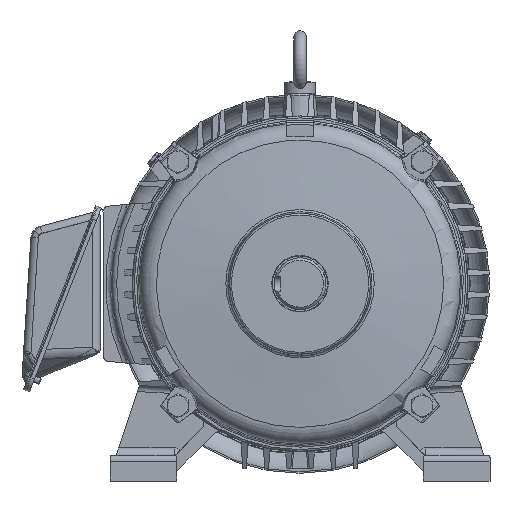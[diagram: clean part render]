
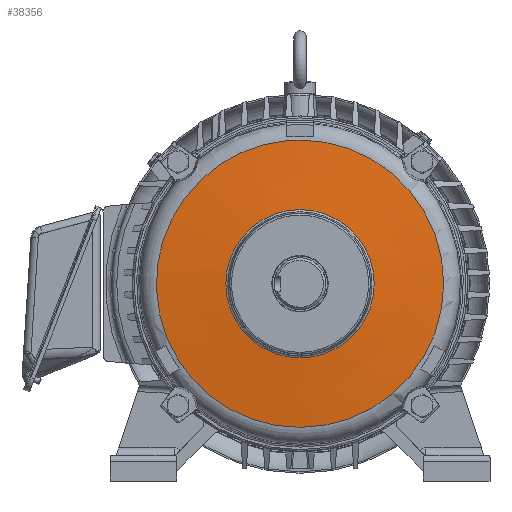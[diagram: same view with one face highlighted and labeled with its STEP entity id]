
A CAD part, front view. The second image highlights one B-rep face of the part: STEP entity #38356.
In plain terms, the highlighted conical face has half-angle 84.748 degrees and reference radius 58.5 mm.
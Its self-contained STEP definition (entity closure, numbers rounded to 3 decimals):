
#2909=CONICAL_SURFACE('',#41138,58.5,1.479);
#3737=CIRCLE('',#41134,116.474);
#3740=CIRCLE('',#41139,60.143);
#8513=ORIENTED_EDGE('',*,*,#17128,.T.);
#8514=ORIENTED_EDGE('',*,*,#17131,.T.);
#17128=EDGE_CURVE('',#21698,#21698,#3737,.T.);
#17131=EDGE_CURVE('',#21701,#21701,#3740,.T.);
#21698=VERTEX_POINT('',#67091);
#21701=VERTEX_POINT('',#67099);
#27958=EDGE_LOOP('',(#8513));
#27959=EDGE_LOOP('',(#8514));
#30398=FACE_BOUND('',#27958,.T.);
#30399=FACE_BOUND('',#27959,.T.);
#38356=ADVANCED_FACE('',(#30398,#30399),#2909,.T.);
#41134=AXIS2_PLACEMENT_3D('',#67090,#46901,#46902);
#41138=AXIS2_PLACEMENT_3D('',#67097,#46909,#46910);
#41139=AXIS2_PLACEMENT_3D('',#67098,#46911,#46912);
#46901=DIRECTION('',(0.,-1.,0.));
#46902=DIRECTION('',(0.,0.,-1.));
#46909=DIRECTION('',(0.,1.,0.));
#46910=DIRECTION('',(0.,0.,1.));
#46911=DIRECTION('',(0.,1.,0.));
#46912=DIRECTION('',(0.,0.,1.));
#67090=CARTESIAN_POINT('',(0.,20.329,0.));
#67091=CARTESIAN_POINT('',(0.,20.329,-116.474));
#67097=CARTESIAN_POINT('',(0.,15.,0.));
#67098=CARTESIAN_POINT('',(0.,15.151,0.));
#67099=CARTESIAN_POINT('',(0.,15.151,60.143));
